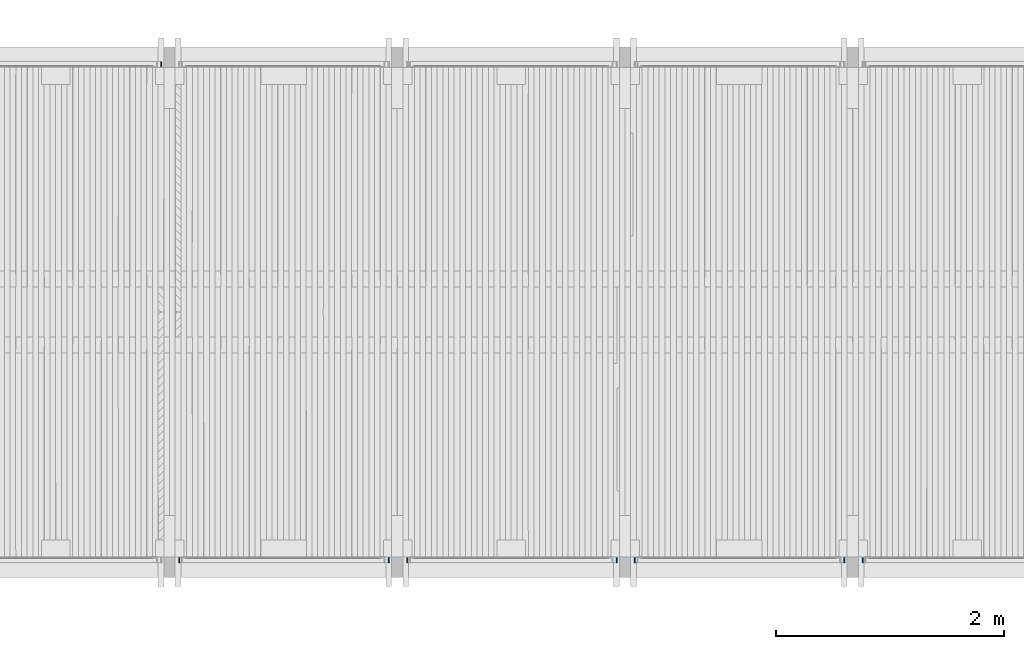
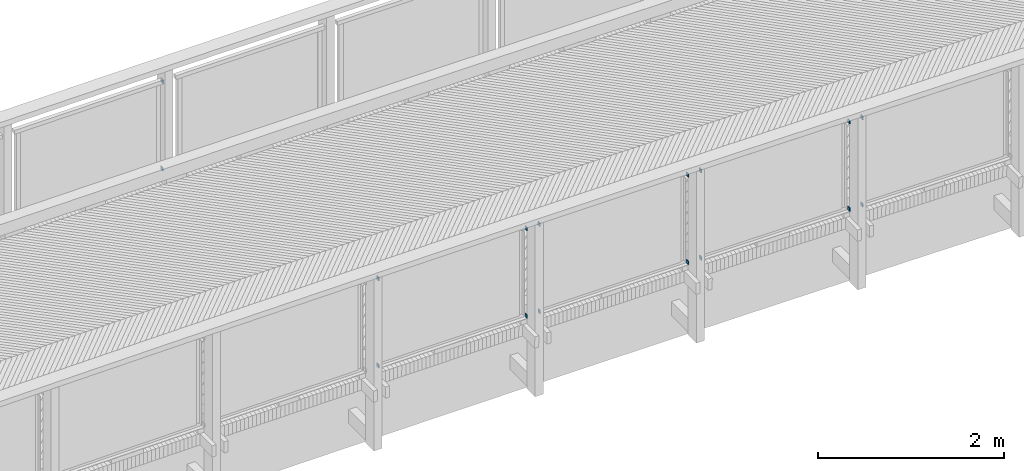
# One storey, part 59 of 65: 16 beams.
"""IFC2X3 building model written with IfcOpenShell, lengths in millimetres."""

from ifc_helpers import new_model, si_unit, frame, origin_with_axes, place, context, subcontext, project, spatial, faceted_brep, material, type_object, element, save


model = new_model("IFC2X3")

# Units and contexts
model_context = context("Model", 3, precision=1e-05, world=origin_with_axes())
body_context = subcontext(model_context, "Body", "Model", "MODEL_VIEW")
ifc_project = project(units=[si_unit("LENGTHUNIT", "METRE", prefix="MILLI"), si_unit("AREAUNIT", "SQUARE_METRE"), si_unit("VOLUMEUNIT", "CUBIC_METRE"), si_unit("MASSUNIT", "GRAM", prefix="KILO"), si_unit("TIMEUNIT", "SECOND"), si_unit("PLANEANGLEUNIT", "RADIAN"), si_unit("SOLIDANGLEUNIT", "STERADIAN"), si_unit("THERMODYNAMICTEMPERATUREUNIT", "DEGREE_CELSIUS"), si_unit("LUMINOUSINTENSITYUNIT", "LUMEN")], contexts=[model_context])

# Site, building, storey
site_placement = place(None, origin_with_axes())
site = spatial("IfcSite", under=ifc_project, at=site_placement, Name="Undefined", CompositionType="ELEMENT")
building_placement = place(site_placement, origin_with_axes())
building = spatial("IfcBuilding", under=site, at=building_placement, Name="Undefined", CompositionType="ELEMENT")
storey_placement = place(building_placement, origin_with_axes())
storey = spatial("IfcBuildingStorey", under=building, at=storey_placement, Name="Undefined", CompositionType="ELEMENT", Elevation=0.0)

# Beams
ifc_material = material(Name="STEEL/S235JR")
beam_type = type_object("IfcBeamType", Name="PL45*10", PredefinedType="NOTDEFINED")
for number, where, z_axis, x_axis, name in (
    (1, (3926.95376452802, 24519.9900000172, 4425.1190043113), (0.00623752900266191, 0.0, 0.99998054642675), (0.0, 1.0, 0.0), "BEAM"),
    (2, (3927.11735667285, 24520.0200000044, 3280.11951086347), (-0.00684613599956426, 0.0, -0.999976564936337), (0.0, 1.0, 0.0), "BEAM"),
    (3, (10087.5410243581, 20210.0100000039, 4435.08499730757), (0.0194951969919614, 0.0, 0.999809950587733), (0.0, -1.0, 0.0), "BEAM"),
    (4, (8087.62946652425, 20210.0099999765, 4438.69231366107), (0.0161829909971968, 0.0, 0.999869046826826), (0.0, -1.0, 0.0), "BEAM"),
    (5, (9926.76044431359, 20210.0099999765, 4435.79022576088), (0.0161829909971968, 0.0, 0.999869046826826), (0.0, -1.0, 0.0), "BEAM"),
    (6, (6087.70997360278, 20210.0100000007, 4435.66631633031), (0.012866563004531, 0.0, 0.999917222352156), (0.0, -1.0, 0.0), "BEAM"),
    (7, (7926.84046080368, 20210.0100000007, 4438.86422516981), (0.012866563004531, 0.0, 0.999917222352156), (0.0, -1.0, 0.0), "BEAM"),
    (8, (4087.8052180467, 20210.0100000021, 4426.0143288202), (0.00955403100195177, 0.0, 0.999954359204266), (0.0, -1.0, 0.0), "BEAM"),
    (9, (5926.91501989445, 20210.0100000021, 4435.3047714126), (0.00955403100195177, 0.0, 0.999954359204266), (0.0, -1.0, 0.0), "BEAM"),
    (10, (10088.3488453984, 20210.0099999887, 3290.07879384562), (-0.0194951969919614, 0.0, -0.999809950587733), (0.0, -1.0, 0.0), "BEAM"),
    (11, (8088.24086263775, 20210.0099999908, 3293.68852994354), (-0.0161829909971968, 0.0, -0.999869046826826), (0.0, -1.0, 0.0), "BEAM"),
    (12, (9927.38090642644, 20209.9800000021, 3290.78659845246), (-0.0167915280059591, 0.0, -0.999859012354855), (0.0, -1.0, 0.0), "BEAM"),
    (13, (6088.1532167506, 20210.0099999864, 3290.66428220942), (-0.012866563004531, 0.0, -0.999917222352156), (0.0, -1.0, 0.0), "BEAM"),
    (14, (7927.2927693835, 20209.9799999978, 3293.86237752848), (-0.0134751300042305, 0.0, -0.999909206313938), (0.0, -1.0, 0.0), "BEAM"),
    (15, (4088.0861223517, 20210.0099999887, 3281.01353908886), (-0.00955403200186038, 0.0, -0.999954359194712), (0.0, -1.0, 0.0), "BEAM"),
    (16, (5927.20498895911, 20209.9800000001, 3290.30419819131), (-0.0101626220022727, 0.0, -0.999948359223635), (0.0, -1.0, 0.0), "BEAM"),
):
    element("IfcBeam", number, at=place(storey_placement, frame(where, z_axis=z_axis, x_axis=x_axis)), inside=storey, type_object=beam_type, material=ifc_material, Name=name, ObjectType="PL45*10", context=body_context, shape_type="Brep", body=[
        faceted_brep([(0.0, 5.0, -22.5), (0.0, 5.0, 22.5), (45.0, 5.0, 22.5), (45.0, 5.0, -22.5), (0.0, -5.0, 22.5), (45.0, -5.0, 22.5), (0.0, -5.0, -22.5000000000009), (45.0, -5.0, -22.5000000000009)], [[[0, 1, 2, 3]], [[1, 4, 5, 2]], [[4, 6, 7, 5]], [[6, 0, 3, 7]], [[5, 7, 3, 2]], [[6, 4, 1, 0]]]),
    ])

save(model, "model.ifc")
